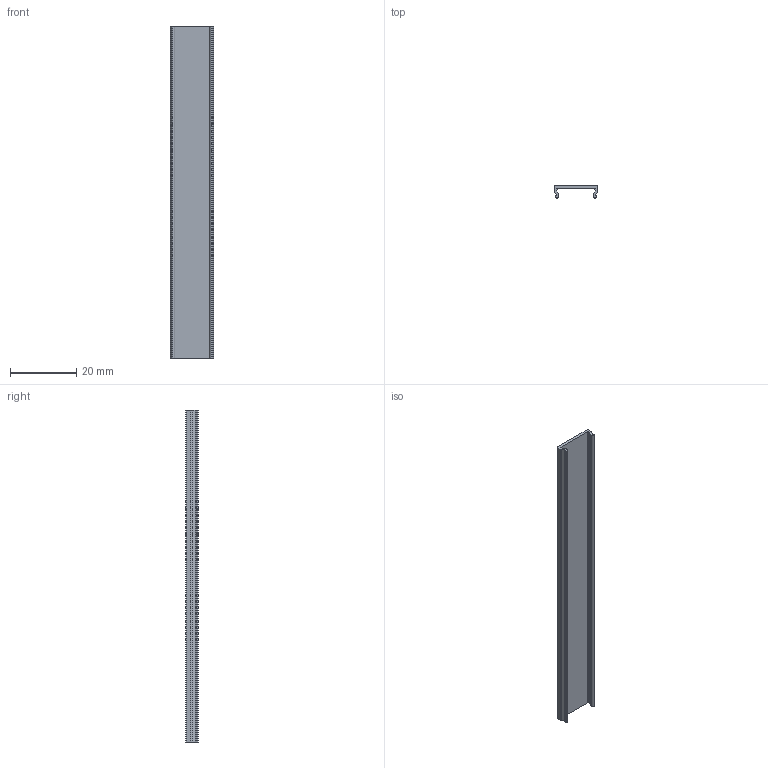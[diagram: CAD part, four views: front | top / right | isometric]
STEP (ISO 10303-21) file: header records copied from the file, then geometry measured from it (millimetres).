
FILE_DESCRIPTION (( 'STEP AP203' ), '1' );
FILE_NAME ('TM-krycí lišta k LED profilùm naklapávací_198516 a 198517 a 244352 a 252279 a 221007 a 221008 a 233554 a 269801 a 404412_3D.STEP', '2022-04-12T12:32:32', ( '' ), ( '' ), 'SwSTEP 2.0', 'SolidWorks 2019', '' );
FILE_SCHEMA (( 'CONFIG_CONTROL_DESIGN' ));
Length unit declared in the file: millimetre
Products named in the file (1): TM-krycí lišta k LED profilùm naklapávací_198516 a 198517 a 244352 a 252279 a 221007 a 221008 a 233554 a 269801 a 404412_3D
Bounding box: 13 x 3.64 x 100 mm (x, y, z)
Volume: 1462.7 mm3; surface area: 3937.8 mm2
Topology: 1 solids, 1 shells, 35 faces, 99 edges, 66 vertices
Faces by surface type: cylinder 21, plane 14
Entity records: 1232 total; most frequent: DIRECTION 213, CARTESIAN_POINT 201, ORIENTED_EDGE 198, EDGE_CURVE 99, AXIS2_PLACEMENT_3D 78, VERTEX_POINT 66, LINE 57, VECTOR 57
